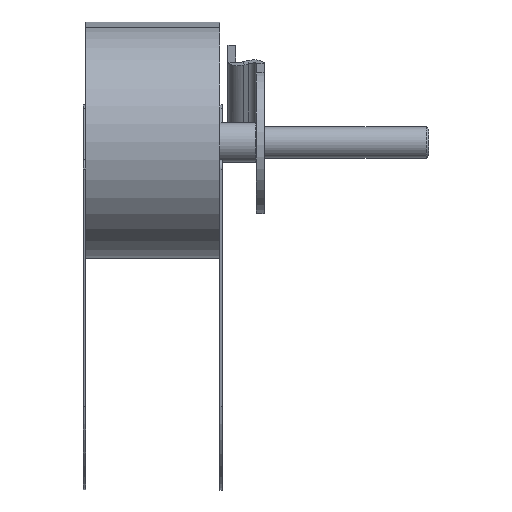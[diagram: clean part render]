
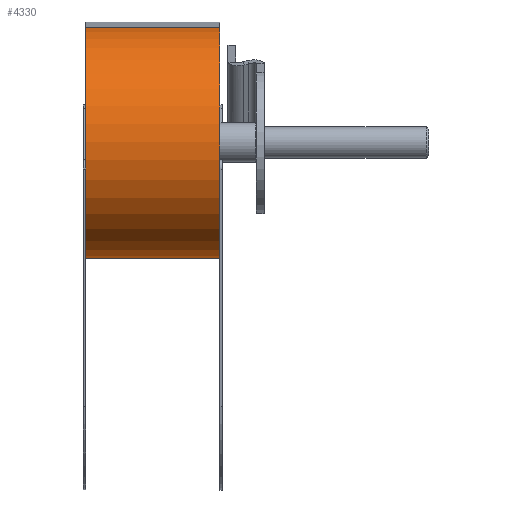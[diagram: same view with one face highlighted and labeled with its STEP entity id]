
A CAD part, left-side view. The second image highlights one B-rep face of the part: STEP entity #4330.
In plain terms, the highlighted cylindrical face has radius 73.3 mm (diameter 146.6 mm), a partial arc.
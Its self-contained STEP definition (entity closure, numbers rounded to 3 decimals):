
#390=FACE_OUTER_BOUND('',#661,.T.);
#661=EDGE_LOOP('',(#3631,#3632,#3633,#3634,#3635,#3636));
#1044=LINE('',#7554,#1420);
#1045=LINE('',#7556,#1421);
#1420=VECTOR('',#5827,10.);
#1421=VECTOR('',#5830,10.);
#1545=CIRCLE('',#4535,73.3);
#1601=CIRCLE('',#4636,73.3);
#1609=CIRCLE('',#4647,73.3);
#1659=CIRCLE('',#4741,73.3);
#1835=VERTEX_POINT('',#6950);
#1836=VERTEX_POINT('',#6951);
#1931=VERTEX_POINT('',#7233);
#1943=VERTEX_POINT('',#7262);
#1944=VERTEX_POINT('',#7263);
#2023=VERTEX_POINT('',#7507);
#2292=EDGE_CURVE('',#1835,#1836,#1545,.T.);
#2435=EDGE_CURVE('',#1836,#1931,#1601,.T.);
#2448=EDGE_CURVE('',#1943,#1944,#1609,.T.);
#2569=EDGE_CURVE('',#1944,#2023,#1659,.T.);
#2594=EDGE_CURVE('',#2023,#1931,#1044,.T.);
#2595=EDGE_CURVE('',#1943,#1835,#1045,.T.);
#3631=ORIENTED_EDGE('',*,*,#2292,.T.);
#3632=ORIENTED_EDGE('',*,*,#2435,.T.);
#3633=ORIENTED_EDGE('',*,*,#2594,.F.);
#3634=ORIENTED_EDGE('',*,*,#2569,.F.);
#3635=ORIENTED_EDGE('',*,*,#2448,.F.);
#3636=ORIENTED_EDGE('',*,*,#2595,.T.);
#3993=CYLINDRICAL_SURFACE('',#4755,73.3);
#4330=ADVANCED_FACE('',(#390),#3993,.T.);
#4535=AXIS2_PLACEMENT_3D('',#6952,#5211,#5212);
#4636=AXIS2_PLACEMENT_3D('',#7235,#5500,#5501);
#4647=AXIS2_PLACEMENT_3D('',#7264,#5527,#5528);
#4741=AXIS2_PLACEMENT_3D('',#7508,#5786,#5787);
#4755=AXIS2_PLACEMENT_3D('',#7555,#5828,#5829);
#5211=DIRECTION('center_axis',(0.,1.,0.));
#5212=DIRECTION('ref_axis',(0.458,0.,-0.889));
#5500=DIRECTION('center_axis',(0.,1.,0.));
#5501=DIRECTION('ref_axis',(0.458,0.,-0.889));
#5527=DIRECTION('center_axis',(0.,1.,0.));
#5528=DIRECTION('ref_axis',(0.458,0.,-0.889));
#5786=DIRECTION('center_axis',(0.,1.,0.));
#5787=DIRECTION('ref_axis',(0.458,0.,-0.889));
#5827=DIRECTION('',(0.,-1.,0.));
#5828=DIRECTION('center_axis',(0.,-1.,0.));
#5829=DIRECTION('ref_axis',(-0.952,0.,-0.305));
#5830=DIRECTION('',(0.,-1.,0.));
#6950=CARTESIAN_POINT('',(111.843,-42.5,-103.925));
#6951=CARTESIAN_POINT('',(5.865,-42.5,-49.975));
#6952=CARTESIAN_POINT('Origin',(78.3,-42.5,-38.75));
#7233=CARTESIAN_POINT('',(67.758,-42.5,33.788));
#7235=CARTESIAN_POINT('Origin',(78.3,-42.5,-38.75));
#7262=CARTESIAN_POINT('',(111.843,42.5,-103.925));
#7263=CARTESIAN_POINT('',(5.865,42.5,-49.975));
#7264=CARTESIAN_POINT('Origin',(78.3,42.5,-38.75));
#7507=CARTESIAN_POINT('',(67.758,42.5,33.788));
#7508=CARTESIAN_POINT('Origin',(78.3,42.5,-38.75));
#7554=CARTESIAN_POINT('',(67.758,42.5,33.788));
#7555=CARTESIAN_POINT('Origin',(78.3,42.5,-38.75));
#7556=CARTESIAN_POINT('',(111.843,42.5,-103.925));
